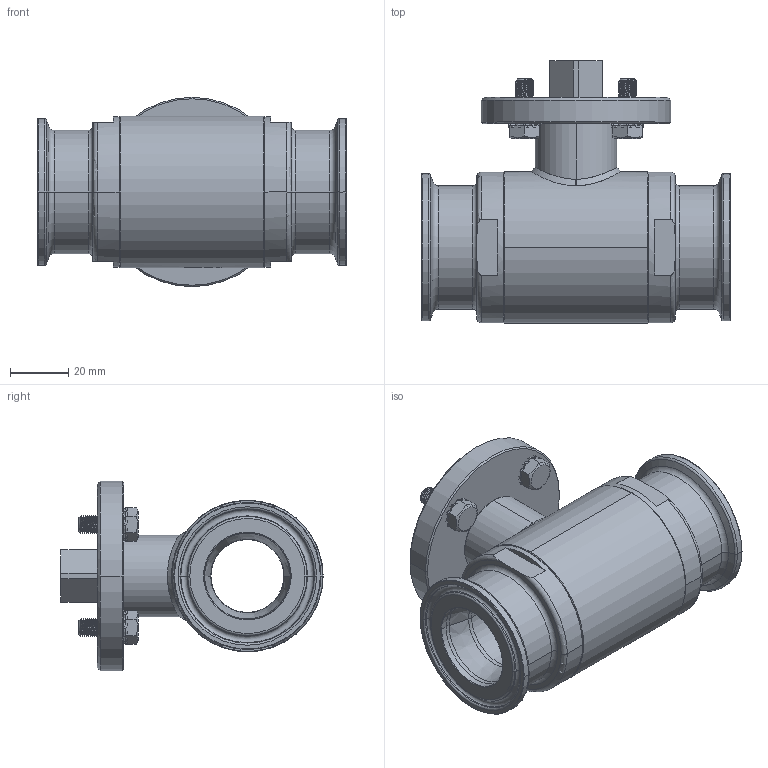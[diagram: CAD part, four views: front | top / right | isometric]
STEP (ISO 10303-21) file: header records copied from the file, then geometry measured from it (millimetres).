
FILE_DESCRIPTION((''),'2;1');
FILE_NAME('1030306271F','2017-09-05T',('UFFICIO TECNICO'),('CDM Tecnoconsulting'),'CREO PARAMETRIC BY PTC INC, 2015290','CREO PARAMETRIC BY PTC INC, 2015290','');
FILE_SCHEMA(('CONFIG_CONTROL_DESIGN'));
Products named in the file (1): 1030306271F
Bounding box: 106 x 90 x 65 mm (x, y, z)
Surface area: 49248.1 mm2 (no closed solid volume)
Topology: 0 solids, 31 shells, 967 faces, 3337 edges, 2338 vertices
Faces by surface type: cylinder 358, plane 280, cone 140, bspline 119, torus 54, extrusion 16
Entity records: 77718 total; most frequent: CARTESIAN_POINT 51264, ORIENTED_EDGE 5610, DIRECTION 4350, EDGE_CURVE 3335, VERTEX_POINT 2338, AXIS2_PLACEMENT_3D 1589, B_SPLINE_CURVE_WITH_KNOTS 1438, VECTOR 1172
